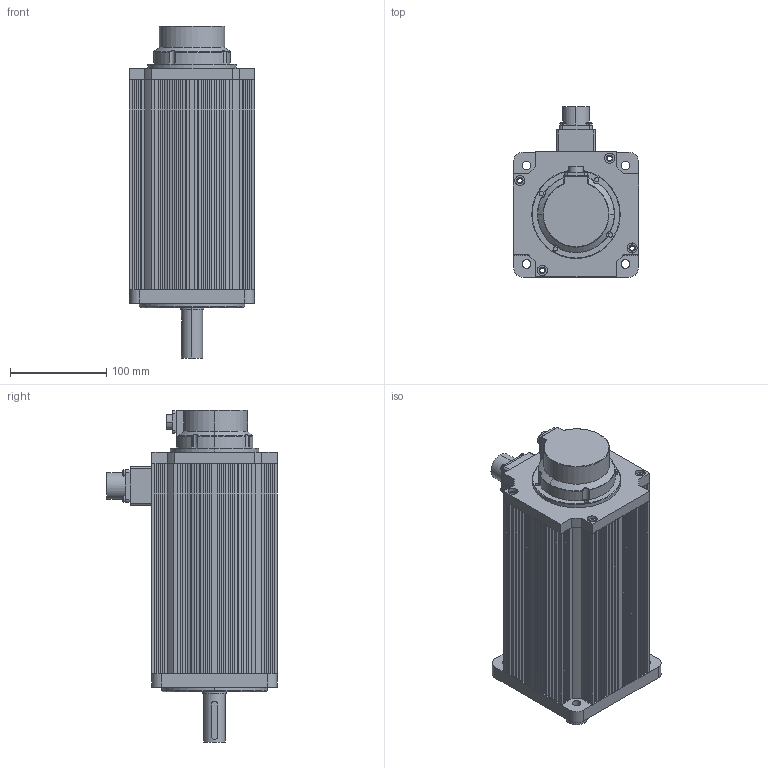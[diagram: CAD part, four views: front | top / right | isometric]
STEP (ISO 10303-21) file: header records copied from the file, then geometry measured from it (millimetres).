
FILE_DESCRIPTION (( 'STEP AP203' ), '1' );
FILE_NAME ('130ST-M23015.STEP', '2025-03-18T11:58:47', ( '' ), ( '' ), 'SwSTEP 2.0', 'SolidWorks 2020', '' );
FILE_SCHEMA (( 'CONFIG_CONTROL_DESIGN' ));
Length unit declared in the file: millimetre
Products named in the file (10): SC-CMV1-R10P-E; 130A諉盄釱-1; 蚐猾; 110A綴欶; 堤粣; 23N.M儂褲; 130ST-M23015; 130綴傷裔; 18-10; 130ヶ傷裔
Assembly tree (9 placements, depth 2):
  130ST-M23015
    130綴傷裔
    130ヶ傷裔
    堤粣
    蚐猾
    130A諉盄釱-1
    23N.M儂褲
    110A綴欶
    18-10
    SC-CMV1-R10P-E
Bounding box: 130 x 176.8 x 345 mm (x, y, z)
Volume: 969444 mm3; surface area: 495914.3 mm2
Topology: 9 solids, 9 shells, 900 faces, 2391 edges, 1556 vertices
Faces by surface type: plane 487, cylinder 339, torus 34, cone 19, sphere 16, bspline 5
Entity records: 29981 total; most frequent: CARTESIAN_POINT 6000, DIRECTION 4856, ORIENTED_EDGE 4730, EDGE_CURVE 2365, AXIS2_PLACEMENT_3D 1653, LINE 1550, VECTOR 1550, VERTEX_POINT 1548
